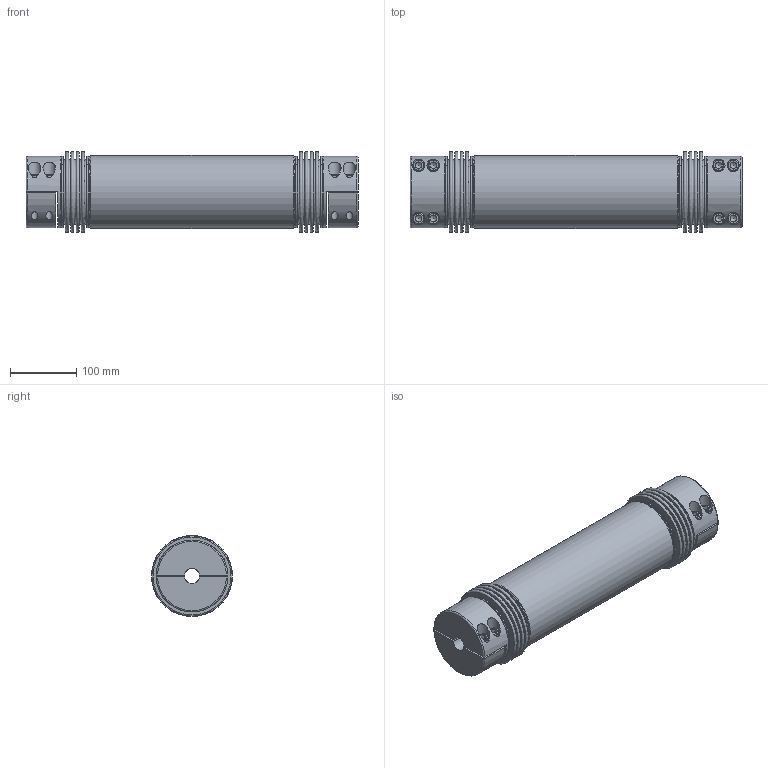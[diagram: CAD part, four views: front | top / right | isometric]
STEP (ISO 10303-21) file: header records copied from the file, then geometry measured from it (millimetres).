
FILE_DESCRIPTION( ( 'Unknown' ), '1' );
FILE_NAME( 'F:/PR/14_Step-Dateien/WD-HD/WD-HD 800 - L=0,5m.stp', 'Unknown', ( 'Unknown' ), ( 'Unknown' ), 'PSStep 10.1', 'Unknown', ' ' );
FILE_SCHEMA( ( 'AUTOMOTIVE_DESIGN { 1 0 10303 214 1 1 1 1 }' ) );
Length unit declared in the file: millimetre
Products named in the file (1): WD-HD 800
Bounding box: 500 x 122 x 122 mm (x, y, z)
Volume: 1881327.5 mm3; surface area: 568296.7 mm2
Topology: 1 solids, 3 shells, 338 faces, 722 edges, 462 vertices
Faces by surface type: plane 186, cylinder 66, torus 62, cone 24
Full cylindrical faces by diameter (mm): 10.2 x8, 12 x8, 12.5 x8, 18 x8, 19 x8, 23 x2, 66 x2, 81 x2, 92 x2, 100 x1, 106.4 x4, 108 x8, 110 x1
Entity records: 12080 total; most frequent: CARTESIAN_POINT 2775, DIRECTION 1438, ORIENTED_EDGE 1032, AXIS2_PLACEMENT_3D 607, EDGE_LOOP 572, EDGE_CURVE 516, FACE_OUTER_BOUND 458, VERTEX_POINT 408
